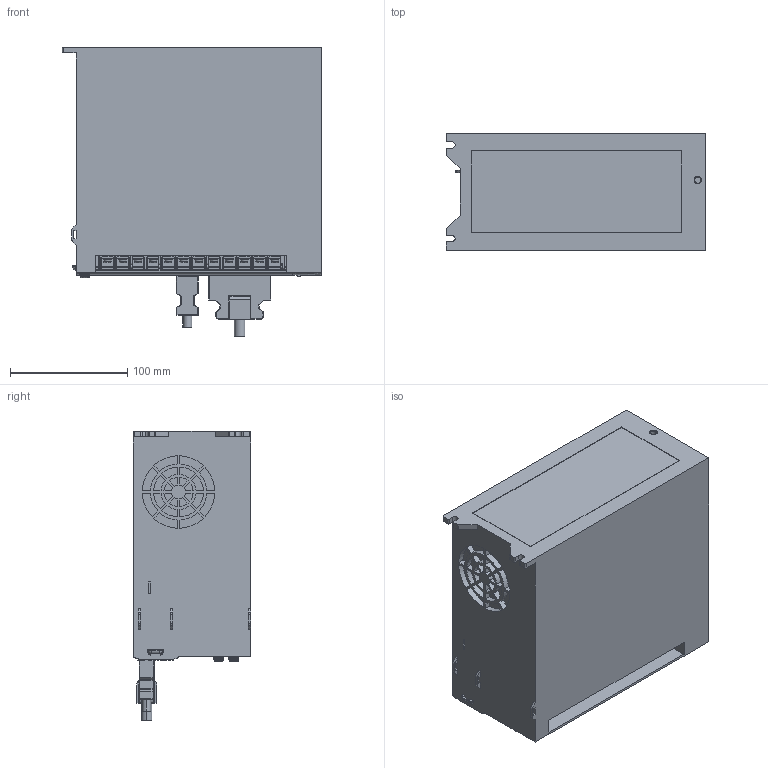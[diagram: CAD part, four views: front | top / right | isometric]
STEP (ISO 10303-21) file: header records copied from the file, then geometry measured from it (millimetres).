
FILE_DESCRIPTION (( 'STEP AP214' ), '1' );
FILE_NAME ('Ω6s-AP-D型-通用&基础-整机外形图.STEP', '2023-04-19T02:32:45', ( '' ), ( '' ), 'SwSTEP 2.0', 'SolidWorks 2014', '' );
FILE_SCHEMA (( 'AUTOMOTIVE_DESIGN' ));
Length unit declared in the file: millimetre
Products named in the file (17): TB1300-00V-12P-C(1)_1; M4-H8; 3KWP; 橈勤硉晤鎢ん脣芛; 控制回路端子插座-SCI-SOSCN-君昊; jxgb1; STOM2X04P; CON12-13-159X25P8-H_1; 次6s-AP-D倰-籵蚚&價插-淕儂俋倛芞
Assembly tree (9 placements, depth 3):
  橈勤硉晤鎢ん脣芛
  控制回路端子插座-SCI-SOSCN-君昊
  3KWP
  STOM2X04P
  M4-H8
Bounding box: 222 x 100 x 247.6 mm (x, y, z)
Volume: 3542323.5 mm3; surface area: 436733.8 mm2
Topology: 24 solids, 24 shells, 2507 faces, 6805 edges, 4463 vertices
Faces by surface type: plane 1605, cylinder 761, torus 56, cone 40, bspline 23, sphere 22
Entity records: 95017 total; most frequent: CARTESIAN_POINT 15875, ORIENTED_EDGE 13370, DIRECTION 12918, EDGE_CURVE 6685, VECTOR 4726, LINE 4726, VERTEX_POINT 4399, AXIS2_PLACEMENT_3D 4096
